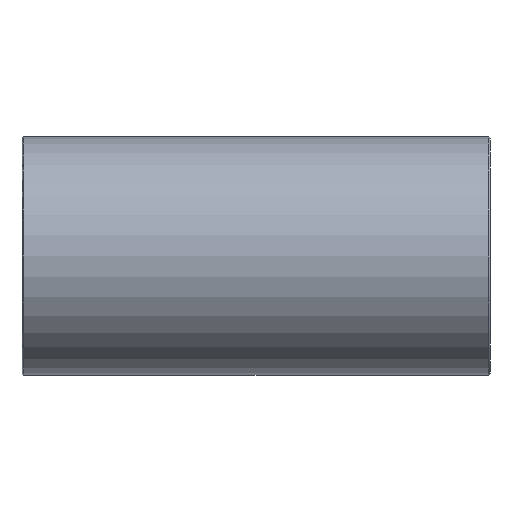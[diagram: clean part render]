
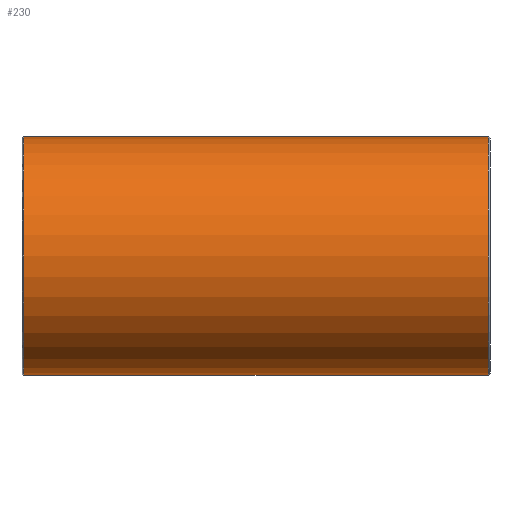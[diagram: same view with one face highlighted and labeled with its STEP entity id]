
A CAD part, front view. The second image highlights one B-rep face of the part: STEP entity #230.
In plain terms, the highlighted cylindrical face has radius 14 mm (diameter 28 mm), a full revolution.
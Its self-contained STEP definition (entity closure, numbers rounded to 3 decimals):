
#26=FACE_BOUND('',#93,.T.);
#27=FACE_BOUND('',#94,.T.);
#46=CIRCLE('',#255,14.);
#47=CIRCLE('',#256,14.);
#63=CYLINDRICAL_SURFACE('',#254,14.);
#72=FACE_OUTER_BOUND('',#92,.T.);
#92=EDGE_LOOP('',(#184));
#93=EDGE_LOOP('',(#185,#186));
#94=EDGE_LOOP('',(#187));
#130=ELLIPSE('',#250,20.468,14.);
#132=ELLIPSE('',#252,20.468,14.);
#136=VERTEX_POINT('',#426);
#137=VERTEX_POINT('',#427);
#138=VERTEX_POINT('',#483);
#139=VERTEX_POINT('',#485);
#157=EDGE_CURVE('',#136,#137,#130,.T.);
#159=EDGE_CURVE('',#137,#136,#132,.T.);
#161=EDGE_CURVE('',#138,#138,#46,.T.);
#162=EDGE_CURVE('',#139,#139,#47,.T.);
#184=ORIENTED_EDGE('',*,*,#161,.F.);
#185=ORIENTED_EDGE('',*,*,#159,.F.);
#186=ORIENTED_EDGE('',*,*,#157,.F.);
#187=ORIENTED_EDGE('',*,*,#162,.F.);
#230=ADVANCED_FACE('',(#72,#26,#27),#63,.T.);
#250=AXIS2_PLACEMENT_3D('',#428,#293,#294);
#252=AXIS2_PLACEMENT_3D('',#480,#297,#298);
#254=AXIS2_PLACEMENT_3D('',#482,#301,#302);
#255=AXIS2_PLACEMENT_3D('',#484,#303,#304);
#256=AXIS2_PLACEMENT_3D('',#486,#305,#306);
#293=DIRECTION('center_axis',(-0.684,0.729,0.));
#294=DIRECTION('ref_axis',(0.729,0.684,0.));
#297=DIRECTION('center_axis',(0.684,0.729,0.));
#298=DIRECTION('ref_axis',(-0.729,0.684,0.));
#301=DIRECTION('center_axis',(1.,0.,0.));
#302=DIRECTION('ref_axis',(0.,1.,0.));
#303=DIRECTION('center_axis',(-1.,0.,0.));
#304=DIRECTION('ref_axis',(0.,-1.,0.));
#305=DIRECTION('center_axis',(1.,0.,0.));
#306=DIRECTION('ref_axis',(0.,-1.,0.));
#426=CARTESIAN_POINT('',(0.,0.,14.));
#427=CARTESIAN_POINT('',(0.,0.,-14.));
#428=CARTESIAN_POINT('Origin',(0.,0.,0.));
#480=CARTESIAN_POINT('Origin',(0.,0.,0.));
#482=CARTESIAN_POINT('Origin',(0.,0.,
0.));
#483=CARTESIAN_POINT('',(-27.314,14.,0.));
#484=CARTESIAN_POINT('Origin',(-27.314,0.,0.));
#485=CARTESIAN_POINT('',(27.314,14.,0.));
#486=CARTESIAN_POINT('Origin',(27.314,0.,0.));
